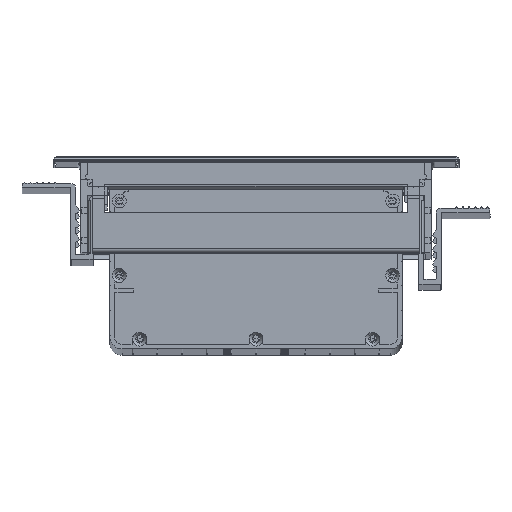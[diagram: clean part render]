
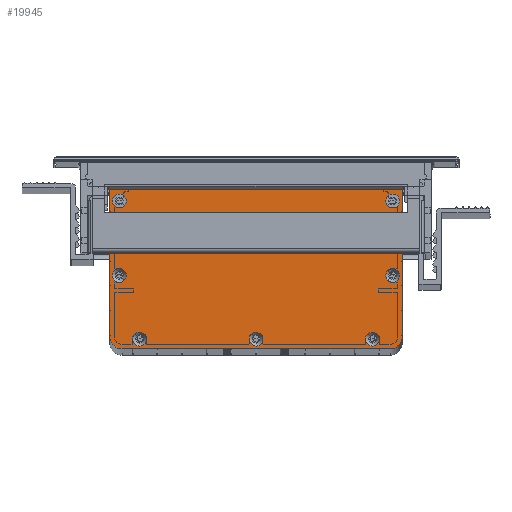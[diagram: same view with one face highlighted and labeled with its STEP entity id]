
A CAD part, top view. The second image highlights one B-rep face of the part: STEP entity #19945.
In plain terms, the highlighted planar face has unit normal (0, 0, 1).
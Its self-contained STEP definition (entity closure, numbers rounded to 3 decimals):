
#295 = DIRECTION ( 'NONE',  ( 1., 0., 0. ) ) ;
#357 = DIRECTION ( 'NONE',  ( 0., 0., 1. ) ) ;
#474 = CARTESIAN_POINT ( 'NONE',  ( 52.264, -63.163, 958.992 ) ) ;
#541 = EDGE_LOOP ( 'NONE', ( #3919 ) ) ;
#648 = FACE_BOUND ( 'NONE', #3320, .T. ) ;
#885 = CARTESIAN_POINT ( 'NONE',  ( 127.575, -61.766, 958.992 ) ) ;
#1056 = EDGE_LOOP ( 'NONE', ( #9505 ) ) ;
#1281 = EDGE_CURVE ( 'NONE', #15207, #11007, #13485, .T. ) ;
#1373 = DIRECTION ( 'NONE',  ( 0., 0., 1. ) ) ;
#1432 = EDGE_LOOP ( 'NONE', ( #5128, #3049, #9077, #2243, #11340, #12774 ) ) ;
#1569 = EDGE_LOOP ( 'NONE', ( #11666 ) ) ;
#1586 = CARTESIAN_POINT ( 'NONE',  ( -14.576, -30.346, 958.992 ) ) ;
#1610 = CARTESIAN_POINT ( 'NONE',  ( 121.225, -68.116, 958.992 ) ) ;
#1833 = EDGE_CURVE ( 'NONE', #4473, #4473, #7394, .T. ) ;
#1889 = LINE ( 'NONE', #11408, #12964 ) ;
#2100 = VECTOR ( 'NONE', #7208, 1000. ) ;
#2113 = CARTESIAN_POINT ( 'NONE',  ( -7.706, -63.163, 958.992 ) ) ;
#2154 = CARTESIAN_POINT ( 'NONE',  ( -18.12, -30.346, 958.992 ) ) ;
#2197 = CIRCLE ( 'NONE', #14172, 6.35 ) ;
#2243 = ORIENTED_EDGE ( 'NONE', *, *, #7279, .F. ) ;
#2255 = DIRECTION ( 'NONE',  ( 1., 0., 0. ) ) ;
#3049 = ORIENTED_EDGE ( 'NONE', *, *, #1281, .F. ) ;
#3222 = CARTESIAN_POINT ( 'NONE',  ( 127.575, -61.766, 958.992 ) ) ;
#3320 = EDGE_LOOP ( 'NONE', ( #17810 ) ) ;
#3476 = CARTESIAN_POINT ( 'NONE',  ( 122.622, -30.346, 958.992 ) ) ;
#3919 = ORIENTED_EDGE ( 'NONE', *, *, #1833, .F. ) ;
#4357 = VERTEX_POINT ( 'NONE', #7794 ) ;
#4473 = VERTEX_POINT ( 'NONE', #17034 ) ;
#5128 = ORIENTED_EDGE ( 'NONE', *, *, #14120, .F. ) ;
#5195 = FACE_OUTER_BOUND ( 'NONE', #1432, .T. ) ;
#5370 = EDGE_CURVE ( 'NONE', #8867, #10827, #2197, .T. ) ;
#5573 = CARTESIAN_POINT ( 'NONE',  ( 126.165, 7.957, 958.992 ) ) ;
#5618 = CARTESIAN_POINT ( 'NONE',  ( 122.622, 7.957, 958.992 ) ) ;
#5845 = VERTEX_POINT ( 'NONE', #6136 ) ;
#5881 = CARTESIAN_POINT ( 'NONE',  ( -18.12, 7.957, 958.992 ) ) ;
#5918 = CIRCLE ( 'NONE', #17248, 3.543 ) ;
#6007 = CARTESIAN_POINT ( 'NONE',  ( -16.723, -61.766, 958.992 ) ) ;
#6136 = CARTESIAN_POINT ( 'NONE',  ( 55.807, -63.163, 958.992 ) ) ;
#6611 = EDGE_CURVE ( 'NONE', #16417, #16417, #18749, .T. ) ;
#6819 = PLANE ( 'NONE',  #16316 ) ;
#7158 = DIRECTION ( 'NONE',  ( 0., -1., 0. ) ) ;
#7208 = DIRECTION ( 'NONE',  ( 1., 0., 0. ) ) ;
#7279 = EDGE_CURVE ( 'NONE', #11098, #14689, #13277, .T. ) ;
#7332 = DIRECTION ( 'NONE',  ( 0., 0., -1. ) ) ;
#7394 = CIRCLE ( 'NONE', #15164, 3.543 ) ;
#7401 = DIRECTION ( 'NONE',  ( 1., 0., 0. ) ) ;
#7714 = EDGE_CURVE ( 'NONE', #10827, #11098, #9603, .T. ) ;
#7794 = CARTESIAN_POINT ( 'NONE',  ( 115.751, -63.163, 958.992 ) ) ;
#8063 = DIRECTION ( 'NONE',  ( 0., 0., 1. ) ) ;
#8291 = VERTEX_POINT ( 'NONE', #14470 ) ;
#8367 = AXIS2_PLACEMENT_3D ( 'NONE', #2113, #15891, #295 ) ;
#8526 = ORIENTED_EDGE ( 'NONE', *, *, #8841, .F. ) ;
#8725 = CARTESIAN_POINT ( 'NONE',  ( -23.073, 15.077, 958.992 ) ) ;
#8805 = VECTOR ( 'NONE', #7158, 1000. ) ;
#8841 = EDGE_CURVE ( 'NONE', #17112, #17112, #10323, .T. ) ;
#8867 = VERTEX_POINT ( 'NONE', #3222 ) ;
#8897 = VERTEX_POINT ( 'NONE', #1586 ) ;
#8935 = CARTESIAN_POINT ( 'NONE',  ( 121.225, -61.766, 958.992 ) ) ;
#9077 = ORIENTED_EDGE ( 'NONE', *, *, #12847, .F. ) ;
#9307 = CARTESIAN_POINT ( 'NONE',  ( 127.575, 15.077, 958.992 ) ) ;
#9505 = ORIENTED_EDGE ( 'NONE', *, *, #12073, .F. ) ;
#9603 = LINE ( 'NONE', #1610, #11342 ) ;
#9649 = EDGE_CURVE ( 'NONE', #4357, #4357, #10015, .T. ) ;
#9891 = DIRECTION ( 'NONE',  ( 0., 1., 0. ) ) ;
#9905 = DIRECTION ( 'NONE',  ( -1., 0., 0. ) ) ;
#10015 = CIRCLE ( 'NONE', #17154, 3.543 ) ;
#10276 = DIRECTION ( 'NONE',  ( 0., 0., 1. ) ) ;
#10323 = CIRCLE ( 'NONE', #8367, 3.543 ) ;
#10394 = CARTESIAN_POINT ( 'NONE',  ( 121.225, -68.116, 958.992 ) ) ;
#10582 = CARTESIAN_POINT ( 'NONE',  ( 112.208, -63.163, 958.992 ) ) ;
#10661 = AXIS2_PLACEMENT_3D ( 'NONE', #5618, #10276, #18278 ) ;
#10794 = EDGE_LOOP ( 'NONE', ( #15616 ) ) ;
#10827 = VERTEX_POINT ( 'NONE', #10394 ) ;
#11007 = VERTEX_POINT ( 'NONE', #9307 ) ;
#11032 = ORIENTED_EDGE ( 'NONE', *, *, #6611, .F. ) ;
#11098 = VERTEX_POINT ( 'NONE', #11223 ) ;
#11157 = CARTESIAN_POINT ( 'NONE',  ( -23.073, -61.766, 958.992 ) ) ;
#11172 = FACE_BOUND ( 'NONE', #16909, .T. ) ;
#11223 = CARTESIAN_POINT ( 'NONE',  ( -16.723, -68.116, 958.992 ) ) ;
#11340 = ORIENTED_EDGE ( 'NONE', *, *, #7714, .F. ) ;
#11342 = VECTOR ( 'NONE', #9905, 1000. ) ;
#11408 = CARTESIAN_POINT ( 'NONE',  ( -23.073, -61.766, 958.992 ) ) ;
#11409 = CIRCLE ( 'NONE', #14978, 3.543 ) ;
#11666 = ORIENTED_EDGE ( 'NONE', *, *, #16627, .F. ) ;
#11964 = DIRECTION ( 'NONE',  ( 0., 0., -1. ) ) ;
#12073 = EDGE_CURVE ( 'NONE', #8291, #8291, #16228, .T. ) ;
#12698 = FACE_BOUND ( 'NONE', #541, .T. ) ;
#12774 = ORIENTED_EDGE ( 'NONE', *, *, #5370, .F. ) ;
#12847 = EDGE_CURVE ( 'NONE', #14689, #15207, #1889, .T. ) ;
#12964 = VECTOR ( 'NONE', #9891, 1000. ) ;
#13003 = DIRECTION ( 'NONE',  ( 0., 0., 1. ) ) ;
#13104 = FACE_BOUND ( 'NONE', #1056, .T. ) ;
#13277 = CIRCLE ( 'NONE', #19422, 6.35 ) ;
#13422 = DIRECTION ( 'NONE',  ( -1., 0., 0. ) ) ;
#13485 = LINE ( 'NONE', #8725, #2100 ) ;
#14120 = EDGE_CURVE ( 'NONE', #11007, #8867, #15159, .T. ) ;
#14172 = AXIS2_PLACEMENT_3D ( 'NONE', #8935, #11964, #19965 ) ;
#14470 = CARTESIAN_POINT ( 'NONE',  ( -14.576, 7.957, 958.992 ) ) ;
#14689 = VERTEX_POINT ( 'NONE', #11157 ) ;
#14978 = AXIS2_PLACEMENT_3D ( 'NONE', #474, #8063, #17686 ) ;
#15159 = LINE ( 'NONE', #885, #8805 ) ;
#15164 = AXIS2_PLACEMENT_3D ( 'NONE', #3476, #357, #15652 ) ;
#15196 = CARTESIAN_POINT ( 'NONE',  ( -4.162, -63.163, 958.992 ) ) ;
#15207 = VERTEX_POINT ( 'NONE', #15574 ) ;
#15574 = CARTESIAN_POINT ( 'NONE',  ( -23.073, 15.077, 958.992 ) ) ;
#15616 = ORIENTED_EDGE ( 'NONE', *, *, #9649, .F. ) ;
#15652 = DIRECTION ( 'NONE',  ( 1., 0., 0. ) ) ;
#15838 = DIRECTION ( 'NONE',  ( 0., 0., 1. ) ) ;
#15891 = DIRECTION ( 'NONE',  ( 0., 0., 1. ) ) ;
#15941 = FACE_BOUND ( 'NONE', #1569, .T. ) ;
#16199 = EDGE_CURVE ( 'NONE', #5845, #5845, #11409, .T. ) ;
#16228 = CIRCLE ( 'NONE', #17841, 3.543 ) ;
#16316 = AXIS2_PLACEMENT_3D ( 'NONE', #17357, #13003, #2255 ) ;
#16417 = VERTEX_POINT ( 'NONE', #5573 ) ;
#16627 = EDGE_CURVE ( 'NONE', #8897, #8897, #5918, .T. ) ;
#16638 = DIRECTION ( 'NONE',  ( 0., 0., 1. ) ) ;
#16773 = DIRECTION ( 'NONE',  ( 1., 0., 0. ) ) ;
#16909 = EDGE_LOOP ( 'NONE', ( #11032 ) ) ;
#17034 = CARTESIAN_POINT ( 'NONE',  ( 126.165, -30.346, 958.992 ) ) ;
#17112 = VERTEX_POINT ( 'NONE', #15196 ) ;
#17154 = AXIS2_PLACEMENT_3D ( 'NONE', #10582, #1373, #16773 ) ;
#17248 = AXIS2_PLACEMENT_3D ( 'NONE', #2154, #15838, #18886 ) ;
#17357 = CARTESIAN_POINT ( 'NONE',  ( 121.225, -61.766, 958.992 ) ) ;
#17459 = FACE_BOUND ( 'NONE', #19577, .T. ) ;
#17686 = DIRECTION ( 'NONE',  ( 1., 0., 0. ) ) ;
#17810 = ORIENTED_EDGE ( 'NONE', *, *, #16199, .F. ) ;
#17841 = AXIS2_PLACEMENT_3D ( 'NONE', #5881, #16638, #7401 ) ;
#18278 = DIRECTION ( 'NONE',  ( 1., 0., 0. ) ) ;
#18749 = CIRCLE ( 'NONE', #10661, 3.543 ) ;
#18886 = DIRECTION ( 'NONE',  ( 1., 0., 0. ) ) ;
#19185 = FACE_BOUND ( 'NONE', #10794, .T. ) ;
#19422 = AXIS2_PLACEMENT_3D ( 'NONE', #6007, #7332, #13422 ) ;
#19577 = EDGE_LOOP ( 'NONE', ( #8526 ) ) ;
#19945 = ADVANCED_FACE ( 'NONE', ( #13104, #15941, #17459, #648, #19185, #12698, #11172, #5195 ), #6819, .T. ) ;
#19965 = DIRECTION ( 'NONE',  ( 1., 0., 0. ) ) ;
